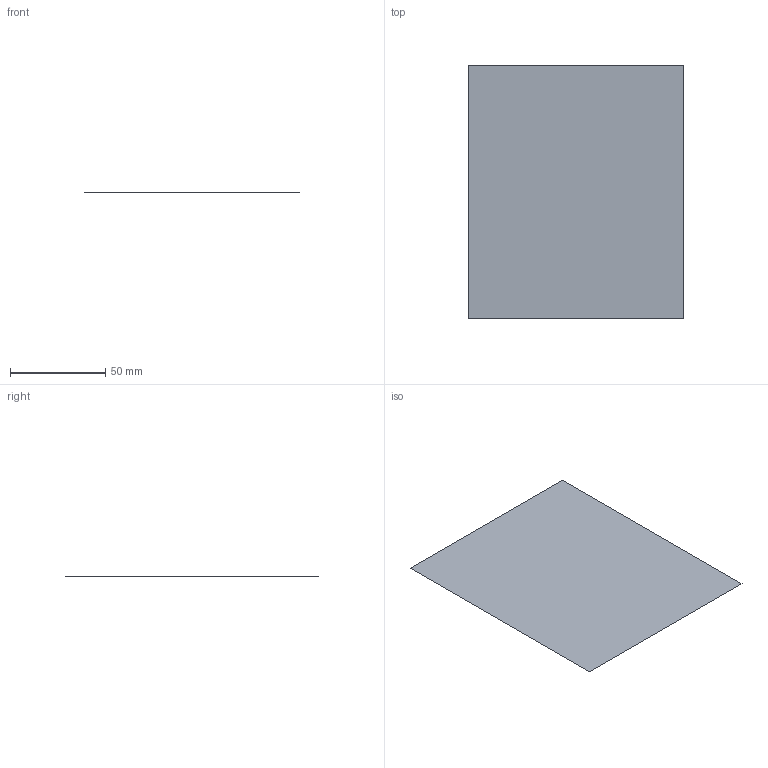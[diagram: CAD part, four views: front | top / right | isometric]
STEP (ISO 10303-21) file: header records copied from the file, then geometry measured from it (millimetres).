
FILE_DESCRIPTION(('CATIA V5 STEP Exchange'),'2;1');
FILE_NAME('C:\_Andres\UNIVERSIDAD\IQS\ASIGNATURAS\DAO\EXF\EXF-15161c\1original\Sánchez_Albiol_Ej06-calculo_v23.stp','2016-03-04T20:57:43+00:00',('none'),('none'),'CATIA Version 5 Release 20 SP 1 (IN-10)','CATIA V5 STEP AP203','none');
FILE_SCHEMA(('CONFIG_CONTROL_DESIGN'));
Length unit declared in the file: millimetre
Products named in the file (1): Sánchez_Albiol_Ej06-calculo_v23
Bounding box: 113 x 133 x 0 mm (x, y, z)
Surface area: 15029 mm2 (no closed solid volume)
Topology: 0 solids, 1 shells, 1 faces, 8 edges, 9 vertices
Faces by surface type: plane 1
Entity records: 130 total; most frequent: CARTESIAN_POINT 23, DIRECTION 12, VECTOR 8, LINE 8, COMPOSITE_CURVE_SEGMENT 4, ORIENTED_EDGE 4, CC_DESIGN_PERSON_AND_ORGANIZATION_ASSIGNMENT 4, PERSON_AND_ORGANIZATION_ROLE 4
